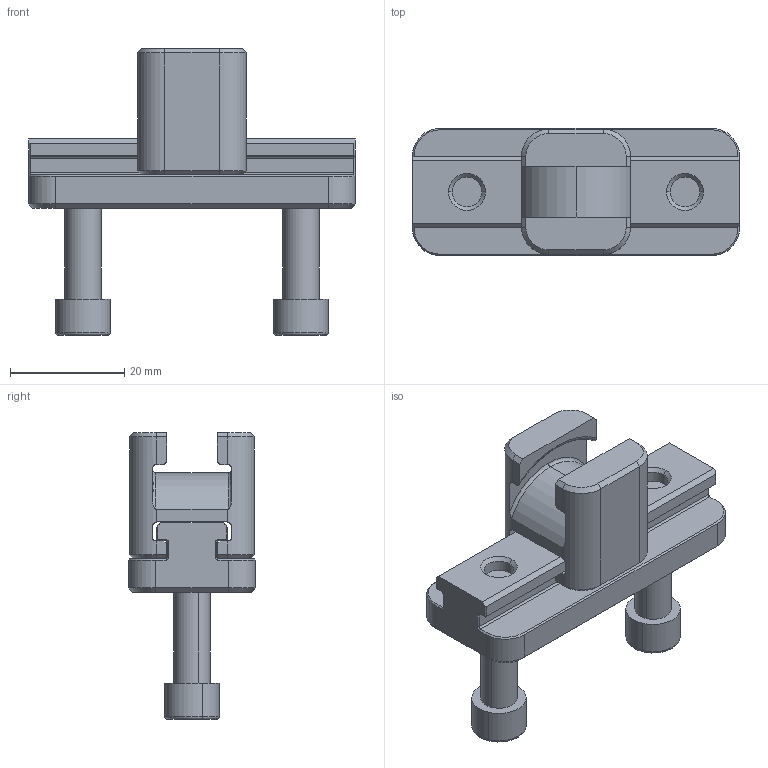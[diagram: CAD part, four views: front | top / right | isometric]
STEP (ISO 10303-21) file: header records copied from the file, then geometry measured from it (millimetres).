
FILE_DESCRIPTION (( 'STEP AP203' ), '1' );
FILE_NAME ('UCU87-TGU150.STEP', '2013-06-11T18:02:01', ( '' ), ( '' ), 'SwSTEP 2.0', 'SolidWorks 2011', '' );
FILE_SCHEMA (( 'CONFIG_CONTROL_DESIGN' ));
Length unit declared in the file: inch
Products named in the file (4): UCU87-TGU150; 250_SHCS; TGU150; UCU87
Assembly tree (4 placements, depth 2):
  UCU87-TGU150
    TGU150
    UCU87
    250_SHCS  x2
Bounding box: 57.12 x 22.23 x 50.14 mm (x, y, z)
Volume: 18149.7 mm3; surface area: 9431.4 mm2
Topology: 4 solids, 4 shells, 198 faces, 471 edges, 285 vertices
Faces by surface type: plane 119, cylinder 34, cone 32, torus 13
Entity records: 5557 total; most frequent: CARTESIAN_POINT 1033, DIRECTION 861, ORIENTED_EDGE 842, EDGE_CURVE 421, AXIS2_PLACEMENT_3D 287, VECTOR 287, LINE 287, VERTEX_POINT 255
